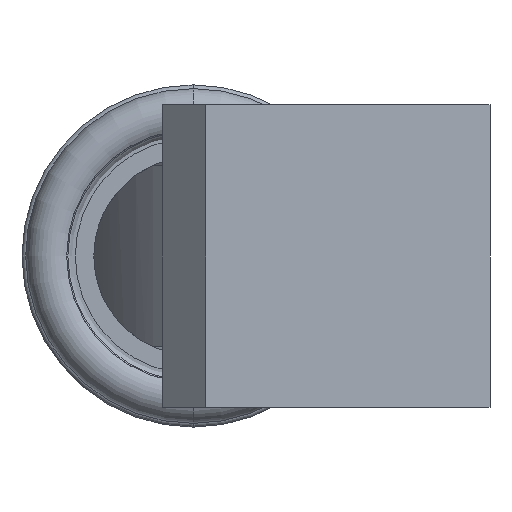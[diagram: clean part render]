
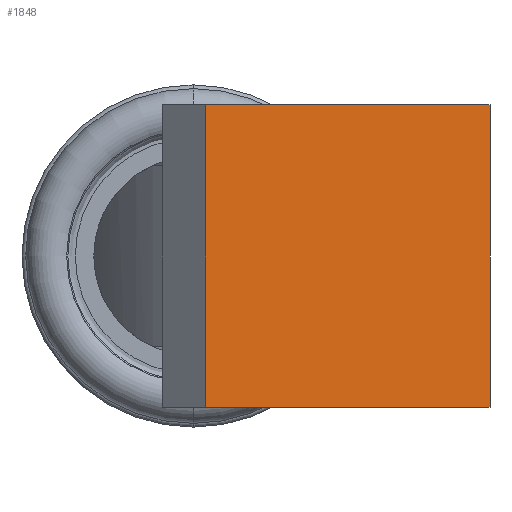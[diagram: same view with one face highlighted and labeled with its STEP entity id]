
A CAD part, left-side view. The second image highlights one B-rep face of the part: STEP entity #1848.
In plain terms, the highlighted planar face has unit normal (-0.998, -0.069, 0).
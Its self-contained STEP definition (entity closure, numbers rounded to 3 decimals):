
#151 = LINE ( 'NONE', #2414, #1151 ) ;
#162 = EDGE_LOOP ( 'NONE', ( #2401, #2357, #1473, #337 ) ) ;
#280 = CARTESIAN_POINT ( 'NONE',  ( -138.88, -9.648, -6.1 ) ) ;
#314 = VECTOR ( 'NONE', #2176, 1000. ) ;
#337 = ORIENTED_EDGE ( 'NONE', *, *, #1929, .F. ) ;
#375 = VERTEX_POINT ( 'NONE', #1656 ) ;
#404 = DIRECTION ( 'NONE',  ( 0., 0., 1. ) ) ;
#476 = CARTESIAN_POINT ( 'NONE',  ( -138.719, -11.973, 6.1 ) ) ;
#620 = DIRECTION ( 'NONE',  ( -0.069, 0.998, 0. ) ) ;
#700 = EDGE_CURVE ( 'NONE', #1261, #2679, #963, .T. ) ;
#829 = CARTESIAN_POINT ( 'NONE',  ( -138.88, -9.648, 6.1 ) ) ;
#850 = VECTOR ( 'NONE', #404, 1000. ) ;
#893 = LINE ( 'NONE', #2495, #850 ) ;
#896 = FACE_OUTER_BOUND ( 'NONE', #162, .T. ) ;
#963 = LINE ( 'NONE', #829, #1141 ) ;
#992 = VERTEX_POINT ( 'NONE', #1695 ) ;
#1056 = DIRECTION ( 'NONE',  ( 0., 0., 1. ) ) ;
#1141 = VECTOR ( 'NONE', #620, 1000. ) ;
#1151 = VECTOR ( 'NONE', #1056, 1000. ) ;
#1223 = EDGE_CURVE ( 'NONE', #375, #1261, #893, .T. ) ;
#1244 = DIRECTION ( 'NONE',  ( 0.998, 0.069, 0. ) ) ;
#1261 = VERTEX_POINT ( 'NONE', #476 ) ;
#1473 = ORIENTED_EDGE ( 'NONE', *, *, #700, .T. ) ;
#1477 = DIRECTION ( 'NONE',  ( -0.069, 0.998, 0. ) ) ;
#1539 = AXIS2_PLACEMENT_3D ( 'NONE', #2660, #1244, #1477 ) ;
#1618 = CARTESIAN_POINT ( 'NONE',  ( -139.516, -0.5, 6.1 ) ) ;
#1656 = CARTESIAN_POINT ( 'NONE',  ( -138.719, -11.973, -6.1 ) ) ;
#1695 = CARTESIAN_POINT ( 'NONE',  ( -139.516, -0.5, -6.1 ) ) ;
#1848 = ADVANCED_FACE ( 'NONE', ( #896 ), #2907, .F. ) ;
#1929 = EDGE_CURVE ( 'NONE', #992, #2679, #151, .T. ) ;
#1995 = EDGE_CURVE ( 'NONE', #375, #992, #2334, .T. ) ;
#2176 = DIRECTION ( 'NONE',  ( -0.069, 0.998, 0. ) ) ;
#2334 = LINE ( 'NONE', #280, #314 ) ;
#2357 = ORIENTED_EDGE ( 'NONE', *, *, #1223, .T. ) ;
#2401 = ORIENTED_EDGE ( 'NONE', *, *, #1995, .F. ) ;
#2414 = CARTESIAN_POINT ( 'NONE',  ( -139.516, -0.5, -15. ) ) ;
#2495 = CARTESIAN_POINT ( 'NONE',  ( -138.719, -11.973, -15. ) ) ;
#2660 = CARTESIAN_POINT ( 'NONE',  ( -138.88, -9.648, -15. ) ) ;
#2679 = VERTEX_POINT ( 'NONE', #1618 ) ;
#2907 = PLANE ( 'NONE',  #1539 ) ;
